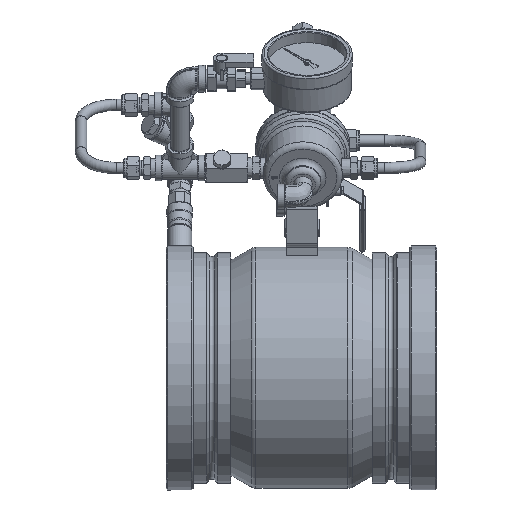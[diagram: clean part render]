
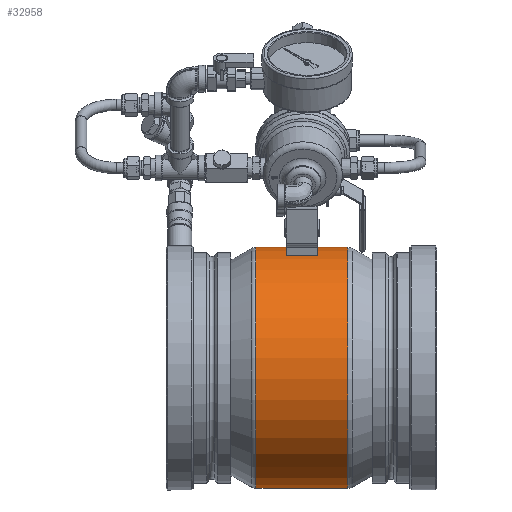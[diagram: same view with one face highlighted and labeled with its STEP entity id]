
A CAD part, left-side view. The second image highlights one B-rep face of the part: STEP entity #32958.
In plain terms, the highlighted cylindrical face has radius 135 mm (diameter 270 mm), a full revolution.
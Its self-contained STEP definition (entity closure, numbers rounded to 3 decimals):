
#668=B_SPLINE_CURVE_WITH_KNOTS('',3,(#56964,#56965,#56966,#56967,#56968,
#56969,#56970,#56971,#56972,#56973,#56974,#56975,#56976,#56977,#56978,#56979,
#56980,#56981),.UNSPECIFIED.,.F.,.F.,(4,2,2,2,2,2,2,2,4),(2.111,
2.639,3.167,3.694,4.222,4.75,
5.278,5.805,6.333),.UNSPECIFIED.);
#669=B_SPLINE_CURVE_WITH_KNOTS('',3,(#56982,#56983,#56984,#56985,#56986,
#56987,#56988,#56989,#56990,#56991,#56992,#56993,#56994,#56995,#56996,#56997,
#56998,#56999,#57000),.UNSPECIFIED.,.F.,.F.,(4,2,2,2,3,2,2,2,4),(6.333,
6.861,7.389,7.917,8.444,8.972,
9.5,10.028,10.555),.UNSPECIFIED.);
#8000=FACE_BOUND('',#12173,.T.);
#8001=FACE_BOUND('',#12174,.T.);
#9608=FACE_OUTER_BOUND('',#12172,.T.);
#12172=EDGE_LOOP('',(#27759));
#12173=EDGE_LOOP('',(#27760,#27761));
#12174=EDGE_LOOP('',(#27762));
#14033=CIRCLE('',#37069,135.);
#14034=CIRCLE('',#37071,135.);
#16612=VERTEX_POINT('',#56962);
#16613=VERTEX_POINT('',#56963);
#16634=VERTEX_POINT('',#57092);
#16635=VERTEX_POINT('',#57095);
#20536=EDGE_CURVE('',#16612,#16613,#668,.T.);
#20537=EDGE_CURVE('',#16613,#16612,#669,.T.);
#20558=EDGE_CURVE('',#16634,#16634,#14033,.T.);
#20559=EDGE_CURVE('',#16635,#16635,#14034,.T.);
#27759=ORIENTED_EDGE('',*,*,#20559,.F.);
#27760=ORIENTED_EDGE('',*,*,#20536,.T.);
#27761=ORIENTED_EDGE('',*,*,#20537,.T.);
#27762=ORIENTED_EDGE('',*,*,#20558,.F.);
#31519=CYLINDRICAL_SURFACE('',#37070,135.);
#32958=ADVANCED_FACE('',(#9608,#8000,#8001),#31519,.T.);
#37069=AXIS2_PLACEMENT_3D('',#57093,#44063,#44064);
#37070=AXIS2_PLACEMENT_3D('',#57094,#44065,#44066);
#37071=AXIS2_PLACEMENT_3D('',#57096,#44067,#44068);
#44063=DIRECTION('center_axis',(-1.,0.,0.));
#44064=DIRECTION('ref_axis',(0.,-1.,0.));
#44065=DIRECTION('center_axis',(1.,0.,0.));
#44066=DIRECTION('ref_axis',(0.,1.,0.));
#44067=DIRECTION('center_axis',(1.,0.,0.));
#44068=DIRECTION('ref_axis',(0.,-1.,0.));
#56962=CARTESIAN_POINT('',(220.98,55.923,135.));
#56963=CARTESIAN_POINT('',(248.98,55.923,135.));
#56964=CARTESIAN_POINT('Ctrl Pts',(220.98,55.923,135.));
#56965=CARTESIAN_POINT('Ctrl Pts',(220.98,57.682,135.));
#56966=CARTESIAN_POINT('Ctrl Pts',(221.332,59.558,134.962));
#56967=CARTESIAN_POINT('Ctrl Pts',(222.761,63.007,134.825));
#56968=CARTESIAN_POINT('Ctrl Pts',(223.838,64.58,134.728));
#56969=CARTESIAN_POINT('Ctrl Pts',(226.323,67.065,134.545));
#56970=CARTESIAN_POINT('Ctrl Pts',(227.896,68.142,134.448));
#56971=CARTESIAN_POINT('Ctrl Pts',(231.345,69.571,134.31));
#56972=CARTESIAN_POINT('Ctrl Pts',(233.221,69.923,134.272));
#56973=CARTESIAN_POINT('Ctrl Pts',(236.739,69.923,134.272));
#56974=CARTESIAN_POINT('Ctrl Pts',(238.615,69.571,134.31));
#56975=CARTESIAN_POINT('Ctrl Pts',(242.064,68.142,134.448));
#56976=CARTESIAN_POINT('Ctrl Pts',(243.637,67.065,134.545));
#56977=CARTESIAN_POINT('Ctrl Pts',(246.122,64.58,134.728));
#56978=CARTESIAN_POINT('Ctrl Pts',(247.199,63.007,134.825));
#56979=CARTESIAN_POINT('Ctrl Pts',(248.628,59.558,134.962));
#56980=CARTESIAN_POINT('Ctrl Pts',(248.98,57.682,135.));
#56981=CARTESIAN_POINT('Ctrl Pts',(248.98,55.923,135.));
#56982=CARTESIAN_POINT('Ctrl Pts',(248.98,55.923,135.));
#56983=CARTESIAN_POINT('Ctrl Pts',(248.98,54.164,135.));
#56984=CARTESIAN_POINT('Ctrl Pts',(248.628,52.288,134.962));
#56985=CARTESIAN_POINT('Ctrl Pts',(247.199,48.839,134.825));
#56986=CARTESIAN_POINT('Ctrl Pts',(246.122,47.266,134.728));
#56987=CARTESIAN_POINT('Ctrl Pts',(243.637,44.781,134.545));
#56988=CARTESIAN_POINT('Ctrl Pts',(242.064,43.704,134.448));
#56989=CARTESIAN_POINT('Ctrl Pts',(238.615,42.275,134.31));
#56990=CARTESIAN_POINT('Ctrl Pts',(236.739,41.923,134.272));
#56991=CARTESIAN_POINT('Ctrl Pts',(234.98,41.923,134.272));
#56992=CARTESIAN_POINT('Ctrl Pts',(233.221,41.923,134.272));
#56993=CARTESIAN_POINT('Ctrl Pts',(231.345,42.275,134.31));
#56994=CARTESIAN_POINT('Ctrl Pts',(227.896,43.704,134.448));
#56995=CARTESIAN_POINT('Ctrl Pts',(226.323,44.781,134.545));
#56996=CARTESIAN_POINT('Ctrl Pts',(223.838,47.266,134.728));
#56997=CARTESIAN_POINT('Ctrl Pts',(222.761,48.839,134.825));
#56998=CARTESIAN_POINT('Ctrl Pts',(221.332,52.288,134.962));
#56999=CARTESIAN_POINT('Ctrl Pts',(220.98,54.164,135.));
#57000=CARTESIAN_POINT('Ctrl Pts',(220.98,55.923,135.));
#57092=CARTESIAN_POINT('',(183.608,190.923,0.));
#57093=CARTESIAN_POINT('Origin',(183.608,55.923,0.));
#57094=CARTESIAN_POINT('Origin',(234.98,55.923,0.));
#57095=CARTESIAN_POINT('',(286.353,190.923,0.));
#57096=CARTESIAN_POINT('Origin',(286.353,55.923,0.));
